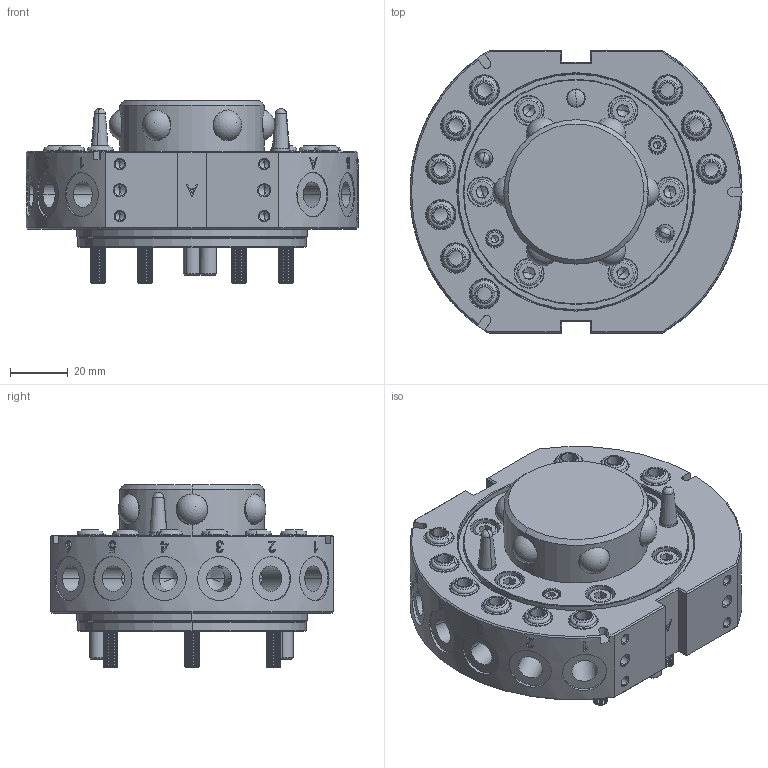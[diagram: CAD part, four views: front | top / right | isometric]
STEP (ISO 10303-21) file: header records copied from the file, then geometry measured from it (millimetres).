
FILE_DESCRIPTION (( 'STEP AP203' ), '1' );
FILE_NAME ('QCA-50R.STEP', '2024-03-19T08:22:52', ( '微软用户' ), ( '微软中国' ), 'SwSTEP 2.0', 'SolidWorks 2018', '' );
FILE_SCHEMA (( 'CONFIG_CONTROL_DESIGN' ));
Length unit declared in the file: millimetre
Products named in the file (1): QCA-50R
Bounding box: 115 x 98 x 63.2 mm (x, y, z)
Volume: 308757.4 mm3; surface area: 57387.2 mm2
Topology: 1 solids, 36 shells, 2521 faces, 5435 edges, 3032 vertices
Faces by surface type: cone 1229, cylinder 787, plane 380, torus 54, bspline 47, sphere 24
Entity records: 73924 total; most frequent: CARTESIAN_POINT 18734, DIRECTION 12599, ORIENTED_EDGE 10674, EDGE_CURVE 5337, AXIS2_PLACEMENT_3D 5012, VERTEX_POINT 3014, EDGE_LOOP 2733, LINE 2575
